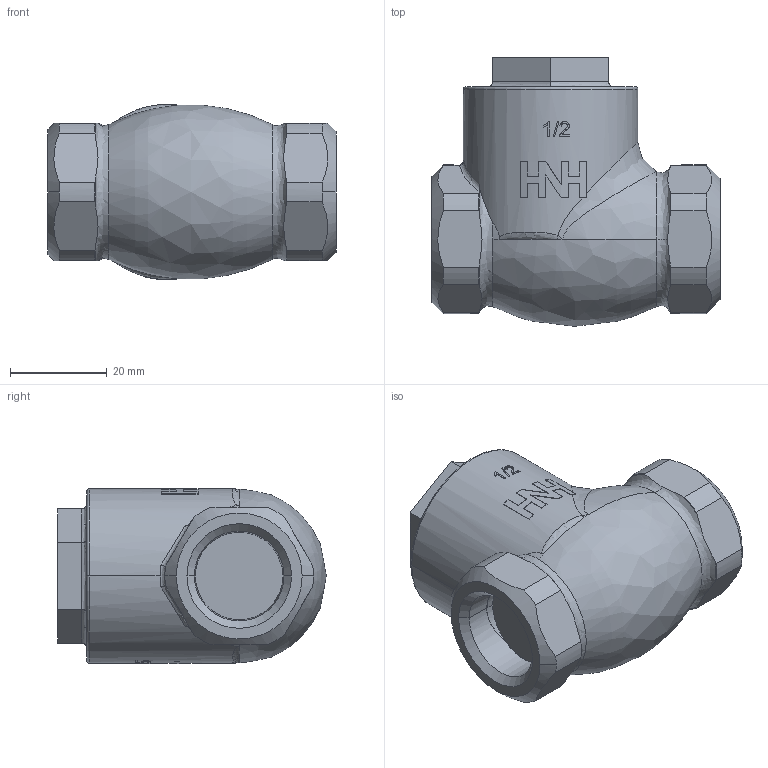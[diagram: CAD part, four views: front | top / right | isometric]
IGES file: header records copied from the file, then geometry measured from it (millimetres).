
Global section: file name: No Iges File Name specified; native system: AutoDesk Inventor R12.0; preprocessor: AutoDesk Inventor Iges Exporter R12.0; date: 20110303.125548; units: millimetre
Bounding box: 59.5 x 55.5 x 36.2 mm (x, y, z)
Volume: 53619.1 mm3; surface area: 13886.4 mm2
Topology: 1 solids, 2 shells, 236 faces, 646 edges, 423 vertices
Faces by surface type: plane 95, bspline 75, cylinder 26, revolution 22, cone 16, torus 2
